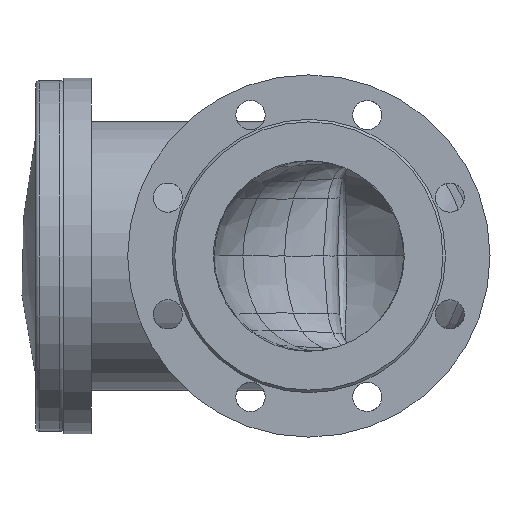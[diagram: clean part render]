
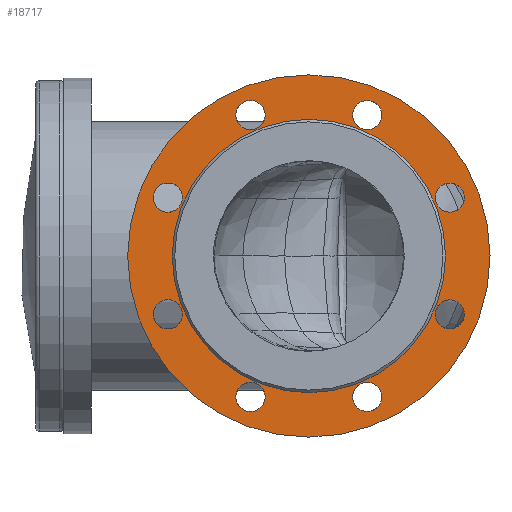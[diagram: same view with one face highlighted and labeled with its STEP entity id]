
A CAD part, left-side view. The second image highlights one B-rep face of the part: STEP entity #18717.
In plain terms, the highlighted planar face has unit normal (-1, 0, 0).
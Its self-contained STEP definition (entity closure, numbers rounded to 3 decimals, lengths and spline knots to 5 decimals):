
#1111=FACE_BOUND('',#4694,.T.);
#1112=FACE_BOUND('',#4695,.T.);
#1113=FACE_BOUND('',#4696,.T.);
#1114=FACE_BOUND('',#4697,.T.);
#1115=FACE_BOUND('',#4698,.T.);
#1116=FACE_BOUND('',#4699,.T.);
#1117=FACE_BOUND('',#4700,.T.);
#1118=FACE_BOUND('',#4701,.T.);
#1119=FACE_BOUND('',#4702,.T.);
#1206=PLANE('',#19769);
#3418=FACE_OUTER_BOUND('',#4693,.T.);
#4693=EDGE_LOOP('',(#17264));
#4694=EDGE_LOOP('',(#17265));
#4695=EDGE_LOOP('',(#17266));
#4696=EDGE_LOOP('',(#17267));
#4697=EDGE_LOOP('',(#17268));
#4698=EDGE_LOOP('',(#17269));
#4699=EDGE_LOOP('',(#17270));
#4700=EDGE_LOOP('',(#17271));
#4701=EDGE_LOOP('',(#17272));
#4702=EDGE_LOOP('',(#17273));
#6636=CIRCLE('',#19134,0.1075);
#6638=CIRCLE('',#19137,0.1425);
#6645=CIRCLE('',#19148,0.0115);
#6646=CIRCLE('',#19150,0.0115);
#6647=CIRCLE('',#19152,0.0115);
#6648=CIRCLE('',#19154,0.0115);
#6658=CIRCLE('',#19172,0.0115);
#6659=CIRCLE('',#19174,0.0115);
#6660=CIRCLE('',#19176,0.0115);
#6661=CIRCLE('',#19178,0.0115);
#7451=VERTEX_POINT('',#25873);
#7453=VERTEX_POINT('',#25879);
#7459=VERTEX_POINT('',#25899);
#7460=VERTEX_POINT('',#25903);
#7461=VERTEX_POINT('',#25907);
#7462=VERTEX_POINT('',#25911);
#7485=VERTEX_POINT('',#26318);
#7486=VERTEX_POINT('',#26322);
#7487=VERTEX_POINT('',#26326);
#7488=VERTEX_POINT('',#26330);
#9258=EDGE_CURVE('',#7451,#7451,#6636,.T.);
#9261=EDGE_CURVE('',#7453,#7453,#6638,.T.);
#9272=EDGE_CURVE('',#7459,#7459,#6645,.T.);
#9274=EDGE_CURVE('',#7460,#7460,#6646,.T.);
#9276=EDGE_CURVE('',#7461,#7461,#6647,.T.);
#9278=EDGE_CURVE('',#7462,#7462,#6648,.T.);
#9308=EDGE_CURVE('',#7485,#7485,#6658,.T.);
#9310=EDGE_CURVE('',#7486,#7486,#6659,.T.);
#9312=EDGE_CURVE('',#7487,#7487,#6660,.T.);
#9314=EDGE_CURVE('',#7488,#7488,#6661,.T.);
#17264=ORIENTED_EDGE('',*,*,#9261,.T.);
#17265=ORIENTED_EDGE('',*,*,#9314,.F.);
#17266=ORIENTED_EDGE('',*,*,#9312,.F.);
#17267=ORIENTED_EDGE('',*,*,#9310,.F.);
#17268=ORIENTED_EDGE('',*,*,#9308,.F.);
#17269=ORIENTED_EDGE('',*,*,#9258,.F.);
#17270=ORIENTED_EDGE('',*,*,#9278,.F.);
#17271=ORIENTED_EDGE('',*,*,#9276,.F.);
#17272=ORIENTED_EDGE('',*,*,#9274,.F.);
#17273=ORIENTED_EDGE('',*,*,#9272,.F.);
#18717=ADVANCED_FACE('',(#3418,#1111,#1112,#1113,#1114,#1115,#1116,#1117,
#1118,#1119),#1206,.F.);
#19134=AXIS2_PLACEMENT_3D('',#25874,#20596,#20597);
#19137=AXIS2_PLACEMENT_3D('',#25880,#20603,#20604);
#19148=AXIS2_PLACEMENT_3D('',#25901,#20629,#20630);
#19150=AXIS2_PLACEMENT_3D('',#25905,#20634,#20635);
#19152=AXIS2_PLACEMENT_3D('',#25909,#20639,#20640);
#19154=AXIS2_PLACEMENT_3D('',#25913,#20644,#20645);
#19172=AXIS2_PLACEMENT_3D('',#26320,#20685,#20686);
#19174=AXIS2_PLACEMENT_3D('',#26324,#20690,#20691);
#19176=AXIS2_PLACEMENT_3D('',#26328,#20695,#20696);
#19178=AXIS2_PLACEMENT_3D('',#26332,#20700,#20701);
#19769=AXIS2_PLACEMENT_3D('',#79141,#22115,#22116);
#20596=DIRECTION('center_axis',(-1.,0.,0.));
#20597=DIRECTION('ref_axis',(0.,1.,0.));
#20603=DIRECTION('center_axis',(-1.,0.,0.));
#20604=DIRECTION('ref_axis',(0.,1.,0.));
#20629=DIRECTION('center_axis',(-1.,0.,0.));
#20630=DIRECTION('ref_axis',(0.,1.,0.));
#20634=DIRECTION('center_axis',(-1.,0.,0.));
#20635=DIRECTION('ref_axis',(0.,1.,0.));
#20639=DIRECTION('center_axis',(-1.,0.,0.));
#20640=DIRECTION('ref_axis',(0.,1.,0.));
#20644=DIRECTION('center_axis',(-1.,0.,0.));
#20645=DIRECTION('ref_axis',(0.,1.,0.));
#20685=DIRECTION('center_axis',(-1.,0.,0.));
#20686=DIRECTION('ref_axis',(0.,1.,0.));
#20690=DIRECTION('center_axis',(-1.,0.,0.));
#20691=DIRECTION('ref_axis',(0.,1.,0.));
#20695=DIRECTION('center_axis',(-1.,0.,0.));
#20696=DIRECTION('ref_axis',(0.,1.,0.));
#20700=DIRECTION('center_axis',(-1.,0.,0.));
#20701=DIRECTION('ref_axis',(0.,1.,0.));
#22115=DIRECTION('center_axis',(1.,0.,0.));
#22116=DIRECTION('ref_axis',(0.,-1.,0.));
#25873=CARTESIAN_POINT('',(-0.238,-0.1075,0.));
#25874=CARTESIAN_POINT('Origin',(-0.238,0.,
0.));
#25879=CARTESIAN_POINT('',(-0.238,0.1425,0.));
#25880=CARTESIAN_POINT('Origin',(-0.238,0.,
0.));
#25899=CARTESIAN_POINT('',(-0.238,-0.10273,-0.03779));
#25901=CARTESIAN_POINT('Origin',(-0.238,-0.11087,
-0.04592));
#25903=CARTESIAN_POINT('',(-0.238,-0.04592,-0.09937));
#25905=CARTESIAN_POINT('Origin',(-0.238,-0.04592,
-0.11087));
#25907=CARTESIAN_POINT('',(-0.238,0.03779,-0.10273));
#25909=CARTESIAN_POINT('Origin',(-0.238,0.04592,
-0.11087));
#25911=CARTESIAN_POINT('',(-0.238,0.09937,-0.04592));
#25913=CARTESIAN_POINT('Origin',(-0.238,0.11087,-0.04592));
#26318=CARTESIAN_POINT('',(-0.238,-0.10273,0.03779));
#26320=CARTESIAN_POINT('Origin',(-0.238,-0.11087,
0.04592));
#26322=CARTESIAN_POINT('',(-0.238,-0.04592,0.09937));
#26324=CARTESIAN_POINT('Origin',(-0.238,-0.04592,
0.11087));
#26326=CARTESIAN_POINT('',(-0.238,0.03779,0.10273));
#26328=CARTESIAN_POINT('Origin',(-0.238,0.04592,
0.11087));
#26330=CARTESIAN_POINT('',(-0.238,0.09937,0.04592));
#26332=CARTESIAN_POINT('Origin',(-0.238,0.11087,0.04592));
#79141=CARTESIAN_POINT('Origin',(-0.238,0.1425,0.));
